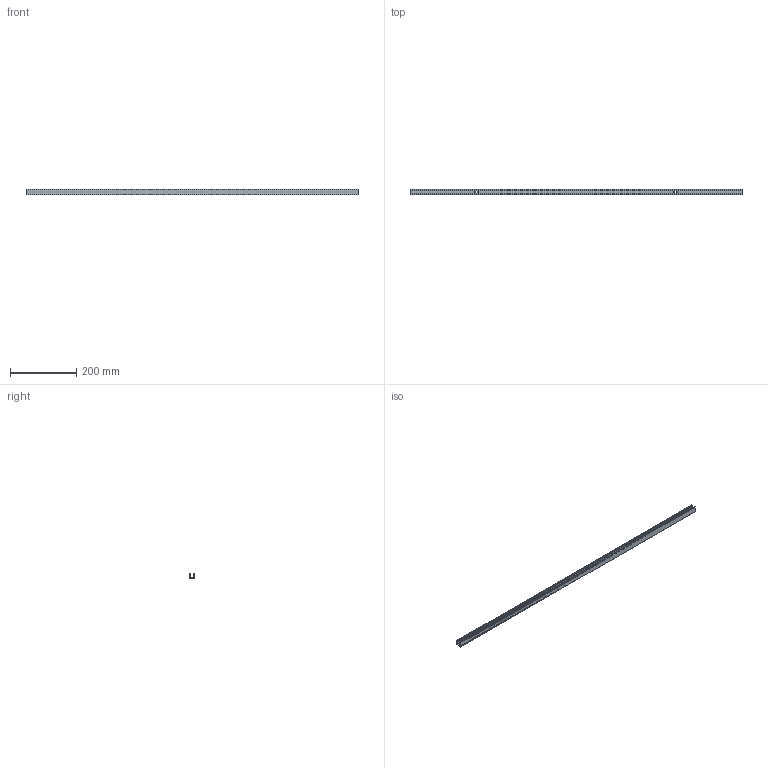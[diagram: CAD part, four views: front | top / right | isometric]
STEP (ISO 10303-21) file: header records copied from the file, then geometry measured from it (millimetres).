
FILE_DESCRIPTION(/* description */ (''),/* implementation_level */ '2;1');
FILE_NAME(/* name */ 'NF_1010_TRANSPARENT_PROFILE_L1000_R05.step',/* time_stamp */ '2026-07-14T19:10:31+02:00',/* author */ (''),/* organization */ (''),/* preprocessor_version */ 'ST-DEVELOPER v20.1',/* originating_system */ 'Autodesk Translation Framework v15.8.0.0',/* authorisation */ '');
FILE_SCHEMA (('AUTOMOTIVE_DESIGN { 1 0 10303 214 3 1 1 }'));
Length unit declared in the file: millimetre
Products named in the file (1): 2026-07-13-13-17-25-874
Bounding box: 1000 x 16.73 x 16.93 mm (x, y, z)
Volume: 112949.9 mm3; surface area: 109711.5 mm2
Topology: 1 solids, 1 shells, 48 faces, 138 edges, 92 vertices
Faces by surface type: plane 36, cylinder 12
Entity records: 1607 total; most frequent: CARTESIAN_POINT 279, ORIENTED_EDGE 276, DIRECTION 260, EDGE_CURVE 138, LINE 114, VECTOR 114, VERTEX_POINT 92, AXIS2_PLACEMENT_3D 73
